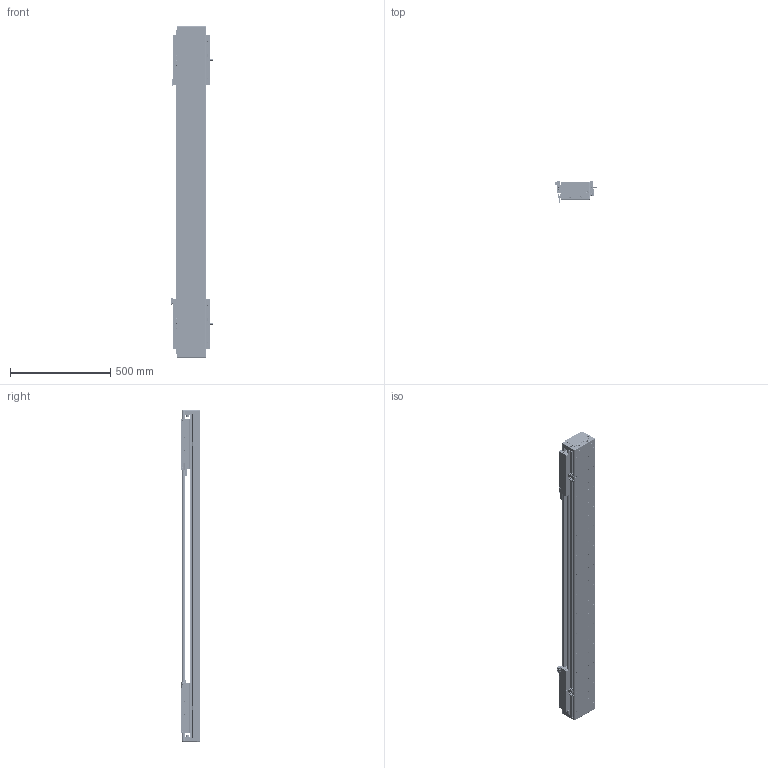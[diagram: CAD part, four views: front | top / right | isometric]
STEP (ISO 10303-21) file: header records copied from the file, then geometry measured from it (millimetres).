
FILE_DESCRIPTION (( 'STEP AP203' ), '1' );
FILE_NAME ('DA-C145-2-C3-T1040-C010-0.2 眻盄萇儂.STEP', '2025-08-13T10:18:38', ( '' ), ( '' ), 'SwSTEP 2.0', 'SolidWorks 2019', '' );
FILE_SCHEMA (( 'CONFIG_CONTROL_DESIGN' ));
Length unit declared in the file: millimetre
Products named in the file (35): 复件 DA145-C3-YB-B-00 压板B^CU145-W 滚珠滑台; CU145-W 幗紩賑怢; 复件 半圆头内六角螺钉 M3×6^CU145-W 滚珠滑台; 葩璃 DA145-T-003-00 裔啣^DA-C145-2-C3-T-C010-0.2; 66245-CU145-HT-W-00 賑雄怢啣(3D芞祧)(00); 复件 DA95-MFP-01 密封片^CU145-W 滚珠滑台; 复件 纯铜油杯 6x6mm^CU145-W 滚珠滑台; 葩璃 PM-Y65^DA-C145-2-C3-T-C010-0.2; 葩璃 CKMA01-W060-TRL^DA-C145-2-C3-T-C010-0.2; 复件 DA145-C3-YB-A-00 压板A^CU145-W 滚珠滑台; 复件 DA145-GYP-00 光电感应片^DA-C145-2-C3-T-C010-0.2; IU-CU145-L-00 菁釱(L1620); 葩璃 CKM03-W060-C1C2-TP-0.2^DA-C145-2-C3-T-C010-0.2; 葩璃 DA145-C3-DP-B-00 菜えB^CU145-W 幗紩賑怢; 复件 DA145-C3-DK-00 挡块^CU145-W 滚珠滑台; CU145-W-00 珨极趙賑雄怢啣; 葩璃 DA95-GT-T-00^IU-CU145-L 菁釱絳寢; 葩璃 DA145-C3-DP-A-00 菜えA^CU145-W 幗紩賑怢; 复件 内六角平端紧定螺钉 GB.T77-2000 M5×10^CU145-W 滚珠滑台; 葩璃 XD-U-02L 棠掑喜^DA-C145-2-C3-T-C010-0.2; 葩璃 鞠褒情蹟譫 M3^DA-C145-2-C3-T-C010-0.2; 复件 DA95-DB-00  挡板^CU145-W 滚珠滑台; DKW168-HXJ-ZJ-00 笢潔滅袉砎蝶; CU145-W 幗紩賑怢-1; 葩璃 DA95-HXJ-00 遣喳砎蝶^DA-C145-2-C3-T-C010-0.2; DKW-KGZ-ZJ-00 中间光电开关支架; DA-C145-2-C3-T1040-C010-0.2 眻盄萇儂; IU-CU145-L 菁釱絳寢; 葩璃 DMA-010-0.2 黍杅芛^DA-C145-2-C3-T-C010-0.2; 复件 DA95-HK-GT-00 滑块钢轨^CU145-W-00 一体化滑动台板; CU145-W-00 珨极趙賑雄怢啣-1; 葩璃 PM-T45^DA-C145-2-C3-T-C010-0.2; 葩璃 DA145-DG-H-N-00 傷裔^DA-C145-2-C3-T-C010-0.2; TAY01-M8; DKW-GYP-ZJ-00 笢潔嫖萇覜茼え
Assembly tree (175 placements, depth 4):
  DA-C145-2-C3-T1040-C010-0.2 眻盄萇儂
    IU-CU145-L 菁釱絳寢
      IU-CU145-L-00 菁釱(L1620)
      葩璃 DA95-GT-T-00^IU-CU145-L 菁釱絳寢  x4
    CU145-W 幗紩賑怢
      CU145-W-00 珨极趙賑雄怢啣
        66245-CU145-HT-W-00 賑雄怢啣(3D芞祧)(00)
        复件 DA95-HK-GT-00 滑块钢轨^CU145-W-00 一体化滑动台板  x8
      复件 DA95-MFP-01 密封片^CU145-W 滚珠滑台  x8
      复件 DA95-DB-00  挡板^CU145-W 滚珠滑台  x8
      复件 内六角平端紧定螺钉 GB.T77-2000 M5×10^CU145-W 滚珠滑台  x4
      复件 纯铜油杯 6x6mm^CU145-W 滚珠滑台  x4
      复件 半圆头内六角螺钉 M3×6^CU145-W 滚珠滑台  x16
      复件 DA145-C3-DK-00 挡块^CU145-W 滚珠滑台  x4
      葩璃 DA145-C3-DP-B-00 菜えB^CU145-W 幗紩賑怢  x2
      复件 DA145-C3-YB-B-00 压板B^CU145-W 滚珠滑台  x2
      葩璃 DA145-C3-DP-A-00 菜えA^CU145-W 幗紩賑怢  x3
      复件 DA145-C3-YB-A-00 压板A^CU145-W 滚珠滑台  x3
      TAY01-M8  x4
    CU145-W 幗紩賑怢-1
      CU145-W-00 珨极趙賑雄怢啣-1
        66245-CU145-HT-W-00 賑雄怢啣(3D芞祧)(00)
        复件 DA95-HK-GT-00 滑块钢轨^CU145-W-00 一体化滑动台板  x8
      复件 DA95-MFP-01 密封片^CU145-W 滚珠滑台  x8
      复件 DA95-DB-00  挡板^CU145-W 滚珠滑台  x8
      复件 内六角平端紧定螺钉 GB.T77-2000 M5×10^CU145-W 滚珠滑台  x4
      复件 纯铜油杯 6x6mm^CU145-W 滚珠滑台  x4
      复件 半圆头内六角螺钉 M3×6^CU145-W 滚珠滑台  x16
      复件 DA145-C3-DK-00 挡块^CU145-W 滚珠滑台  x4
      葩璃 DA145-C3-DP-B-00 菜えB^CU145-W 幗紩賑怢  x2
      复件 DA145-C3-YB-B-00 压板B^CU145-W 滚珠滑台  x2
      葩璃 DA145-C3-DP-A-00 菜えA^CU145-W 幗紩賑怢  x3
      复件 DA145-C3-YB-A-00 压板A^CU145-W 滚珠滑台  x3
      TAY01-M8  x4
    葩璃 CKMA01-W060-TRL^DA-C145-2-C3-T-C010-0.2
    葩璃 PM-T45^DA-C145-2-C3-T-C010-0.2  x4
    葩璃 XD-U-02L 棠掑喜^DA-C145-2-C3-T-C010-0.2
    葩璃 DA145-DG-H-N-00 傷裔^DA-C145-2-C3-T-C010-0.2  x2
    葩璃 DA145-T-003-00 裔啣^DA-C145-2-C3-T-C010-0.2
    葩璃 DA95-HXJ-00 遣喳砎蝶^DA-C145-2-C3-T-C010-0.2  x4
    葩璃 CKM03-W060-C1C2-TP-0.2^DA-C145-2-C3-T-C010-0.2  x2
    葩璃 DMA-010-0.2 黍杅芛^DA-C145-2-C3-T-C010-0.2  x2
    复件 DA145-GYP-00 光电感应片^DA-C145-2-C3-T-C010-0.2  x2
    DKW-GYP-ZJ-00 笢潔嫖萇覜茼え
    DKW-KGZ-ZJ-00 中间光电开关支架
    葩璃 PM-Y65^DA-C145-2-C3-T-C010-0.2
    葩璃 鞠褒情蹟譫 M3^DA-C145-2-C3-T-C010-0.2  x8
    DKW168-HXJ-ZJ-00 笢潔滅袉砎蝶
Bounding box: 213.7 x 108.45 x 1660 mm (x, y, z)
Volume: 11598321 mm3; surface area: 3350310.6 mm2
Topology: 171 solids, 235 shells, 7112 faces, 18754 edges, 11535 vertices
Faces by surface type: plane 2940, cylinder 2884, cone 1120, torus 152, sphere 8, bspline 8
Entity records: 118297 total; most frequent: CARTESIAN_POINT 31352, ORIENTED_EDGE 16672, DIRECTION 16425, EDGE_CURVE 8336, AXIS2_PLACEMENT_3D 5985, VERTEX_POINT 5384, VECTOR 4455, LINE 4455
